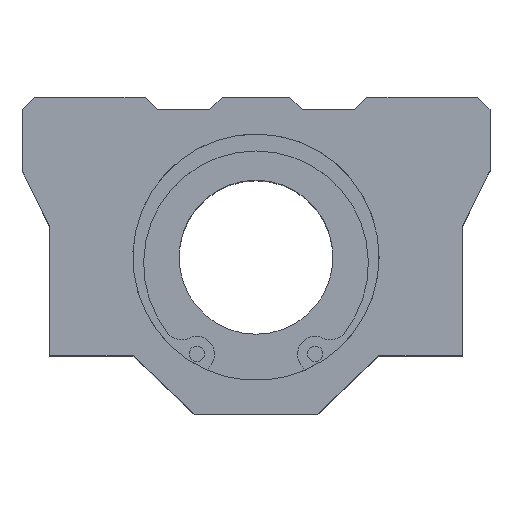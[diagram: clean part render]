
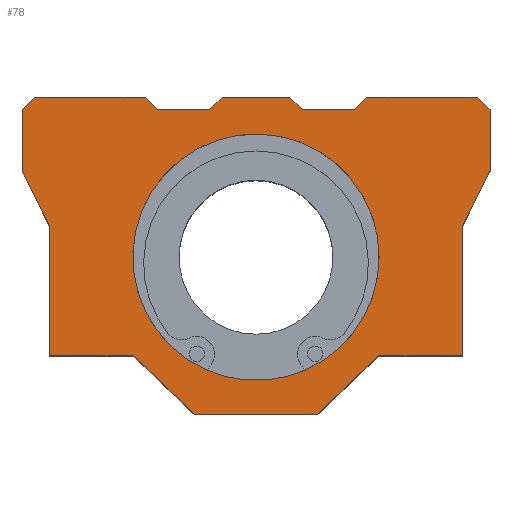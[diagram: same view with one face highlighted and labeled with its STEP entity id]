
A CAD part, top view. The second image highlights one B-rep face of the part: STEP entity #78.
In plain terms, the highlighted planar face has unit normal (0, 0, 1).
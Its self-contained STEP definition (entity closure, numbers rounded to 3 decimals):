
#78=ADVANCED_FACE('',(#150,#151),#152,.T.);
#150=FACE_OUTER_BOUND('',#311,.T.);
#151=FACE_BOUND('',#312,.T.);
#152=PLANE('',#313);
#311=EDGE_LOOP('',(#508,#509,#510,#511,#512,#513,#514,#515,#516,#517,#518,#519,#520,#521,#522,#523,#524,#525,#526,#527,#528,#529));
#312=EDGE_LOOP('',(#530));
#313=AXIS2_PLACEMENT_3D('',#531,#532,#533);
#508=ORIENTED_EDGE('',*,*,#993,.T.);
#509=ORIENTED_EDGE('',*,*,#994,.T.);
#510=ORIENTED_EDGE('',*,*,#995,.T.);
#511=ORIENTED_EDGE('',*,*,#996,.T.);
#512=ORIENTED_EDGE('',*,*,#997,.T.);
#513=ORIENTED_EDGE('',*,*,#998,.T.);
#514=ORIENTED_EDGE('',*,*,#999,.T.);
#515=ORIENTED_EDGE('',*,*,#1000,.T.);
#516=ORIENTED_EDGE('',*,*,#1001,.T.);
#517=ORIENTED_EDGE('',*,*,#1002,.T.);
#518=ORIENTED_EDGE('',*,*,#1003,.T.);
#519=ORIENTED_EDGE('',*,*,#1004,.T.);
#520=ORIENTED_EDGE('',*,*,#1005,.T.);
#521=ORIENTED_EDGE('',*,*,#1006,.T.);
#522=ORIENTED_EDGE('',*,*,#1007,.T.);
#523=ORIENTED_EDGE('',*,*,#1008,.T.);
#524=ORIENTED_EDGE('',*,*,#1009,.T.);
#525=ORIENTED_EDGE('',*,*,#1010,.T.);
#526=ORIENTED_EDGE('',*,*,#1011,.T.);
#527=ORIENTED_EDGE('',*,*,#1012,.T.);
#528=ORIENTED_EDGE('',*,*,#1013,.T.);
#529=ORIENTED_EDGE('',*,*,#1014,.T.);
#530=ORIENTED_EDGE('',*,*,#1015,.T.);
#531=CARTESIAN_POINT('',(-27.0,35.0,33.5));
#532=DIRECTION('',(0.0,-0.0,1.0));
#533=DIRECTION('',(0.0,1.0,0.0));
#993=EDGE_CURVE('',#1178,#1179,#1180,.T.);
#994=EDGE_CURVE('',#1179,#1181,#1182,.T.);
#995=EDGE_CURVE('',#1181,#1183,#1184,.T.);
#996=EDGE_CURVE('',#1183,#1185,#1186,.T.);
#997=EDGE_CURVE('',#1185,#1187,#1188,.T.);
#998=EDGE_CURVE('',#1187,#1189,#1190,.T.);
#999=EDGE_CURVE('',#1189,#1191,#1192,.T.);
#1000=EDGE_CURVE('',#1191,#1193,#1194,.T.);
#1001=EDGE_CURVE('',#1193,#1195,#1196,.T.);
#1002=EDGE_CURVE('',#1195,#1197,#1198,.T.);
#1003=EDGE_CURVE('',#1197,#1199,#1200,.T.);
#1004=EDGE_CURVE('',#1199,#1201,#1202,.T.);
#1005=EDGE_CURVE('',#1201,#1203,#1204,.T.);
#1006=EDGE_CURVE('',#1203,#1205,#1206,.T.);
#1007=EDGE_CURVE('',#1205,#1207,#1208,.T.);
#1008=EDGE_CURVE('',#1207,#1209,#1210,.T.);
#1009=EDGE_CURVE('',#1209,#1211,#1212,.T.);
#1010=EDGE_CURVE('',#1211,#1213,#1214,.T.);
#1011=EDGE_CURVE('',#1213,#1215,#1216,.T.);
#1012=EDGE_CURVE('',#1215,#1217,#1218,.T.);
#1013=EDGE_CURVE('',#1217,#1219,#1220,.T.);
#1014=EDGE_CURVE('',#1219,#1178,#1221,.T.);
#1015=EDGE_CURVE('',#1222,#1222,#1223,.F.);
#1178=VERTEX_POINT('',#1460);
#1179=VERTEX_POINT('',#1461);
#1180=LINE('',#1462,#1463);
#1181=VERTEX_POINT('',#1464);
#1182=LINE('',#1465,#1466);
#1183=VERTEX_POINT('',#1467);
#1184=LINE('',#1468,#1469);
#1185=VERTEX_POINT('',#1470);
#1186=LINE('',#1471,#1472);
#1187=VERTEX_POINT('',#1473);
#1188=LINE('',#1474,#1475);
#1189=VERTEX_POINT('',#1476);
#1190=LINE('',#1477,#1478);
#1191=VERTEX_POINT('',#1479);
#1192=LINE('',#1480,#1481);
#1193=VERTEX_POINT('',#1482);
#1194=LINE('',#1483,#1484);
#1195=VERTEX_POINT('',#1485);
#1196=LINE('',#1486,#1487);
#1197=VERTEX_POINT('',#1488);
#1198=LINE('',#1489,#1490);
#1199=VERTEX_POINT('',#1491);
#1200=LINE('',#1492,#1493);
#1201=VERTEX_POINT('',#1494);
#1202=LINE('',#1495,#1496);
#1203=VERTEX_POINT('',#1497);
#1204=LINE('',#1498,#1499);
#1205=VERTEX_POINT('',#1500);
#1206=LINE('',#1501,#1502);
#1207=VERTEX_POINT('',#1503);
#1208=LINE('',#1504,#1505);
#1209=VERTEX_POINT('',#1506);
#1210=LINE('',#1507,#1508);
#1211=VERTEX_POINT('',#1509);
#1212=LINE('',#1510,#1511);
#1213=VERTEX_POINT('',#1512);
#1214=LINE('',#1513,#1514);
#1215=VERTEX_POINT('',#1515);
#1216=LINE('',#1516,#1517);
#1217=VERTEX_POINT('',#1518);
#1218=LINE('',#1519,#1520);
#1219=VERTEX_POINT('',#1521);
#1220=LINE('',#1522,#1523);
#1221=LINE('',#1524,#1525);
#1222=VERTEX_POINT('',#1526);
#1223=CIRCLE('',#1527,20.0);
#1460=CARTESIAN_POINT('',(-16.0,24.0,33.5));
#1461=CARTESIAN_POINT('',(-18.0,26.0,33.5));
#1462=CARTESIAN_POINT('',(-16.0,24.0,33.5));
#1463=VECTOR('',#1775,1.0);
#1464=CARTESIAN_POINT('',(-36.0,26.0,33.5));
#1465=CARTESIAN_POINT('',(-18.0,26.0,33.5));
#1466=VECTOR('',#1776,1.0);
#1467=CARTESIAN_POINT('',(-38.0,24.0,33.5));
#1468=CARTESIAN_POINT('',(-36.0,26.0,33.5));
#1469=VECTOR('',#1777,1.0);
#1470=CARTESIAN_POINT('',(-38.0,14.0,33.5));
#1471=CARTESIAN_POINT('',(-38.0,24.0,33.5));
#1472=VECTOR('',#1778,1.0);
#1473=CARTESIAN_POINT('',(-33.5,5.0,33.5));
#1474=CARTESIAN_POINT('',(-38.0,14.0,33.5));
#1475=VECTOR('',#1779,1.0);
#1476=CARTESIAN_POINT('',(-33.5,-16.0,33.5));
#1477=CARTESIAN_POINT('',(-33.5,5.0,33.5));
#1478=VECTOR('',#1780,1.0);
#1479=CARTESIAN_POINT('',(-19.952,-16.0,33.5));
#1480=CARTESIAN_POINT('',(-33.5,-16.0,33.5));
#1481=VECTOR('',#1781,1.0);
#1482=CARTESIAN_POINT('',(-10.0,-25.5,33.5));
#1483=CARTESIAN_POINT('',(-19.952,-16.0,33.5));
#1484=VECTOR('',#1782,1.0);
#1485=CARTESIAN_POINT('',(10.0,-25.5,33.5));
#1486=CARTESIAN_POINT('',(-10.0,-25.5,33.5));
#1487=VECTOR('',#1783,1.0);
#1488=CARTESIAN_POINT('',(19.952,-16.0,33.5));
#1489=CARTESIAN_POINT('',(10.0,-25.5,33.5));
#1490=VECTOR('',#1784,1.0);
#1491=CARTESIAN_POINT('',(33.5,-16.0,33.5));
#1492=CARTESIAN_POINT('',(19.952,-16.0,33.5));
#1493=VECTOR('',#1785,1.0);
#1494=CARTESIAN_POINT('',(33.5,5.0,33.5));
#1495=CARTESIAN_POINT('',(33.5,-16.0,33.5));
#1496=VECTOR('',#1786,1.0);
#1497=CARTESIAN_POINT('',(38.0,14.0,33.5));
#1498=CARTESIAN_POINT('',(33.5,5.0,33.5));
#1499=VECTOR('',#1787,1.0);
#1500=CARTESIAN_POINT('',(38.0,24.0,33.5));
#1501=CARTESIAN_POINT('',(38.0,14.0,33.5));
#1502=VECTOR('',#1788,1.0);
#1503=CARTESIAN_POINT('',(36.0,26.0,33.5));
#1504=CARTESIAN_POINT('',(38.0,24.0,33.5));
#1505=VECTOR('',#1789,1.0);
#1506=CARTESIAN_POINT('',(18.0,26.0,33.5));
#1507=CARTESIAN_POINT('',(36.0,26.0,33.5));
#1508=VECTOR('',#1790,1.0);
#1509=CARTESIAN_POINT('',(16.0,24.0,33.5));
#1510=CARTESIAN_POINT('',(18.0,26.0,33.5));
#1511=VECTOR('',#1791,1.0);
#1512=CARTESIAN_POINT('',(7.5,24.0,33.5));
#1513=CARTESIAN_POINT('',(16.0,24.0,33.5));
#1514=VECTOR('',#1792,1.0);
#1515=CARTESIAN_POINT('',(5.5,26.0,33.5));
#1516=CARTESIAN_POINT('',(7.5,24.0,33.5));
#1517=VECTOR('',#1793,1.0);
#1518=CARTESIAN_POINT('',(-5.5,26.0,33.5));
#1519=CARTESIAN_POINT('',(5.5,26.0,33.5));
#1520=VECTOR('',#1794,1.0);
#1521=CARTESIAN_POINT('',(-7.5,24.0,33.5));
#1522=CARTESIAN_POINT('',(-5.5,26.0,33.5));
#1523=VECTOR('',#1795,1.0);
#1524=CARTESIAN_POINT('',(-7.5,24.0,33.5));
#1525=VECTOR('',#1796,1.0);
#1526=CARTESIAN_POINT('',(20.0,0.,33.5));
#1527=AXIS2_PLACEMENT_3D('',#1797,#1798,#1799);
#1775=DIRECTION('',(-0.707,0.707,0.0));
#1776=DIRECTION('',(-1.0,0.0,0.0));
#1777=DIRECTION('',(-0.707,-0.707,0.0));
#1778=DIRECTION('',(0.0,-1.0,0.0));
#1779=DIRECTION('',(0.447,-0.894,0.0));
#1780=DIRECTION('',(0.0,-1.0,0.0));
#1781=DIRECTION('',(1.0,0.0,0.0));
#1782=DIRECTION('',(0.723,-0.69,0.0));
#1783=DIRECTION('',(1.0,0.0,0.0));
#1784=DIRECTION('',(0.723,0.69,0.0));
#1785=DIRECTION('',(1.0,0.0,0.0));
#1786=DIRECTION('',(0.0,1.0,0.0));
#1787=DIRECTION('',(0.447,0.894,0.0));
#1788=DIRECTION('',(0.0,1.0,0.0));
#1789=DIRECTION('',(-0.707,0.707,0.0));
#1790=DIRECTION('',(-1.0,0.0,0.0));
#1791=DIRECTION('',(-0.707,-0.707,0.0));
#1792=DIRECTION('',(-1.0,0.0,0.0));
#1793=DIRECTION('',(-0.707,0.707,0.0));
#1794=DIRECTION('',(-1.0,0.0,0.0));
#1795=DIRECTION('',(-0.707,-0.707,0.0));
#1796=DIRECTION('',(-1.0,0.0,0.0));
#1797=CARTESIAN_POINT('',(0.0,0.0,33.5));
#1798=DIRECTION('',(0.0,0.0,1.0));
#1799=DIRECTION('',(1.0,0.0,0.0));
